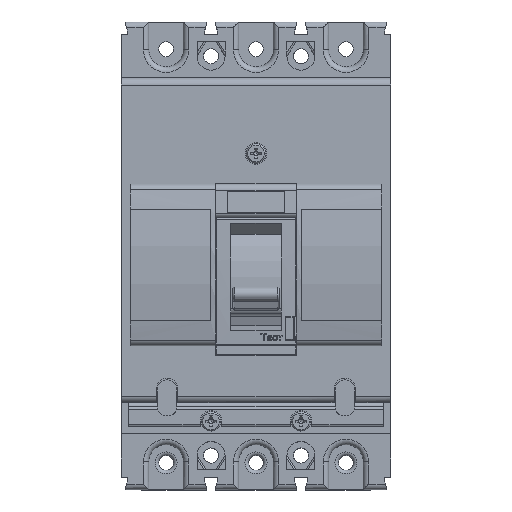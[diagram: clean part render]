
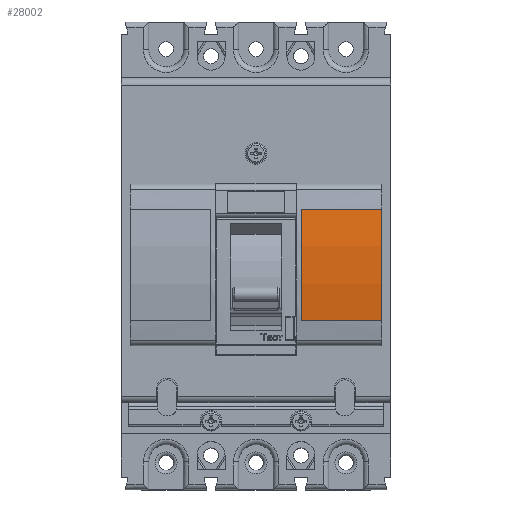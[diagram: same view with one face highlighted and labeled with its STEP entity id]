
A CAD part, top view. The second image highlights one B-rep face of the part: STEP entity #28002.
In plain terms, the highlighted cylindrical face has radius 102.204 mm (diameter 204.407 mm), a partial arc.
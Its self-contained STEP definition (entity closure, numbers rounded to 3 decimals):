
#349 = VECTOR ( 'NONE', #19632, 1000. ) ;
#605 = EDGE_LOOP ( 'NONE', ( #10972, #12762, #29619, #34552 ) ) ;
#676 = VERTEX_POINT ( 'NONE', #37166 ) ;
#857 = EDGE_CURVE ( 'NONE', #676, #46802, #8022, .T. ) ;
#1674 = DIRECTION ( 'NONE',  ( 1., 0., 0. ) ) ;
#5784 = AXIS2_PLACEMENT_3D ( 'NONE', #49791, #1674, #42136 ) ;
#8022 = CIRCLE ( 'NONE', #23555, 102.203 ) ;
#10972 = ORIENTED_EDGE ( 'NONE', *, *, #19924, .T. ) ;
#11939 = CIRCLE ( 'NONE', #28362, 102.203 ) ;
#12762 = ORIENTED_EDGE ( 'NONE', *, *, #22298, .F. ) ;
#12961 = FACE_OUTER_BOUND ( 'NONE', #605, .T. ) ;
#13575 = DIRECTION ( 'NONE',  ( 1., 0., 0. ) ) ;
#15025 = DIRECTION ( 'NONE',  ( 0., 1., 0. ) ) ;
#16998 = EDGE_CURVE ( 'NONE', #676, #23901, #25919, .T. ) ;
#18129 = DIRECTION ( 'NONE',  ( 0., 1., 0. ) ) ;
#18970 = CARTESIAN_POINT ( 'NONE',  ( 35., -18.05, 64.521 ) ) ;
#19632 = DIRECTION ( 'NONE',  ( 1., 0., 0. ) ) ;
#19924 = EDGE_CURVE ( 'NONE', #23901, #35097, #11939, .T. ) ;
#22298 = EDGE_CURVE ( 'NONE', #46802, #35097, #39257, .T. ) ;
#22582 = DIRECTION ( 'NONE',  ( -1., 0., 0. ) ) ;
#23555 = AXIS2_PLACEMENT_3D ( 'NONE', #47302, #43209, #15025 ) ;
#23901 = VERTEX_POINT ( 'NONE', #18970 ) ;
#24080 = CARTESIAN_POINT ( 'NONE',  ( 12.65, 12.95, 64.521 ) ) ;
#25919 = LINE ( 'NONE', #29321, #35496 ) ;
#28002 = ADVANCED_FACE ( 'NONE', ( #12961 ), #39133, .T. ) ;
#28362 = AXIS2_PLACEMENT_3D ( 'NONE', #42537, #22582, #18129 ) ;
#29321 = CARTESIAN_POINT ( 'NONE',  ( 12.65, -18.05, 64.521 ) ) ;
#29619 = ORIENTED_EDGE ( 'NONE', *, *, #857, .F. ) ;
#34552 = ORIENTED_EDGE ( 'NONE', *, *, #16998, .T. ) ;
#35097 = VERTEX_POINT ( 'NONE', #48666 ) ;
#35496 = VECTOR ( 'NONE', #13575, 1000. ) ;
#36576 = CARTESIAN_POINT ( 'NONE',  ( 12.65, 12.95, 64.521 ) ) ;
#37166 = CARTESIAN_POINT ( 'NONE',  ( 12.65, -18.05, 64.521 ) ) ;
#39133 = CYLINDRICAL_SURFACE ( 'NONE', #5784, 102.203 ) ;
#39257 = LINE ( 'NONE', #24080, #349 ) ;
#42136 = DIRECTION ( 'NONE',  ( 0., 1., 0. ) ) ;
#42537 = CARTESIAN_POINT ( 'NONE',  ( 35., -2.55, -36.5 ) ) ;
#43209 = DIRECTION ( 'NONE',  ( -1., 0., 0. ) ) ;
#46802 = VERTEX_POINT ( 'NONE', #36576 ) ;
#47302 = CARTESIAN_POINT ( 'NONE',  ( 12.65, -2.55, -36.5 ) ) ;
#48666 = CARTESIAN_POINT ( 'NONE',  ( 35., 12.95, 64.521 ) ) ;
#49791 = CARTESIAN_POINT ( 'NONE',  ( 12.65, -2.55, -36.5 ) ) ;
